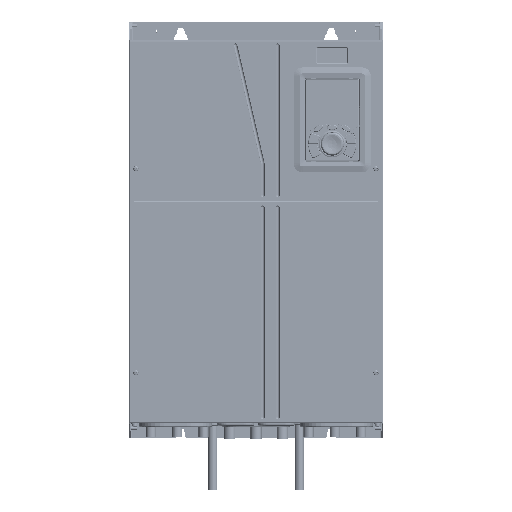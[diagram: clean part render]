
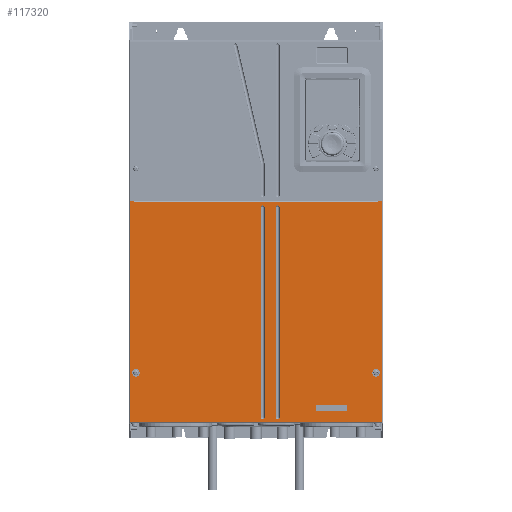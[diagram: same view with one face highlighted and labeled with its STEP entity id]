
A CAD part, top view. The second image highlights one B-rep face of the part: STEP entity #117320.
In plain terms, the highlighted planar face has unit normal (0, 0, 1).
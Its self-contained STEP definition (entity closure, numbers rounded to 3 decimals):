
#116324=DIRECTION('',(0.,1.,0.));
#116325=VECTOR('',#116324,1.2);
#116326=CARTESIAN_POINT('',(163.,146.7,1.2));
#116327=LINE('',#116326,#116325);
#116328=DIRECTION('',(-1.,0.,0.));
#116329=VECTOR('',#116328,4.3);
#116330=CARTESIAN_POINT('',(167.3,147.9,1.2));
#116331=LINE('',#116330,#116329);
#116332=DIRECTION('',(-1.,0.,0.));
#116333=VECTOR('',#116332,4.3);
#116334=CARTESIAN_POINT('',(-163.,147.9,1.2));
#116335=LINE('',#116334,#116333);
#116336=DIRECTION('',(0.,1.,0.));
#116337=VECTOR('',#116336,1.2);
#116338=CARTESIAN_POINT('',(-163.,146.7,1.2));
#116339=LINE('',#116338,#116337);
#116340=DIRECTION('',(0.,1.,0.));
#116341=VECTOR('',#116340,7.);
#116342=CARTESIAN_POINT('',(79.8,-131.4,1.2));
#116343=LINE('',#116342,#116341);
#116344=DIRECTION('',(-1.,0.,0.));
#116345=VECTOR('',#116344,41.);
#116346=CARTESIAN_POINT('',(120.8,-131.4,1.2));
#116347=LINE('',#116346,#116345);
#116348=DIRECTION('',(0.,-1.,0.));
#116349=VECTOR('',#116348,7.);
#116350=CARTESIAN_POINT('',(120.8,-124.4,1.2));
#116351=LINE('',#116350,#116349);
#116352=DIRECTION('',(1.,0.,0.));
#116353=VECTOR('',#116352,41.);
#116354=CARTESIAN_POINT('',(79.8,-124.4,1.2));
#116355=LINE('',#116354,#116353);
#116356=CARTESIAN_POINT('',(160.,-80.9,1.2));
#116357=DIRECTION('',(0.,0.,1.));
#116358=DIRECTION('',(0.,-1.,0.));
#116359=AXIS2_PLACEMENT_3D('',#116356,#116357,#116358);
#116361=CARTESIAN_POINT('',(160.,-80.9,1.2));
#116362=DIRECTION('',(0.,0.,1.));
#116363=DIRECTION('',(0.,1.,0.));
#116364=AXIS2_PLACEMENT_3D('',#116361,#116362,#116363);
#116366=CARTESIAN_POINT('',(-160.,-80.9,1.2));
#116367=DIRECTION('',(0.,0.,1.));
#116368=DIRECTION('',(0.,-1.,0.));
#116369=AXIS2_PLACEMENT_3D('',#116366,#116367,#116368);
#116371=CARTESIAN_POINT('',(-160.,-80.9,1.2));
#116372=DIRECTION('',(0.,0.,1.));
#116373=DIRECTION('',(0.,1.,0.));
#116374=AXIS2_PLACEMENT_3D('',#116371,#116372,#116373);
#116376=DIRECTION('',(0.,1.,0.));
#116377=VECTOR('',#116376,280.);
#116378=CARTESIAN_POINT('',(31.5,-140.4,1.2));
#116379=LINE('',#116378,#116377);
#116380=CARTESIAN_POINT('',(29.,139.6,1.2));
#116381=DIRECTION('',(0.,0.,1.));
#116382=DIRECTION('',(1.,0.,0.));
#116383=AXIS2_PLACEMENT_3D('',#116380,#116381,#116382);
#116385=CARTESIAN_POINT('',(29.,139.6,1.2));
#116386=DIRECTION('',(0.,0.,-1.));
#116387=DIRECTION('',(-1.,0.,0.));
#116388=AXIS2_PLACEMENT_3D('',#116385,#116386,#116387);
#116390=DIRECTION('',(0.,1.,0.));
#116391=VECTOR('',#116390,280.);
#116392=CARTESIAN_POINT('',(26.5,-140.4,1.2));
#116393=LINE('',#116392,#116391);
#116394=CARTESIAN_POINT('',(29.,-140.4,1.2));
#116395=DIRECTION('',(0.,0.,1.));
#116396=DIRECTION('',(-1.,0.,0.));
#116397=AXIS2_PLACEMENT_3D('',#116394,#116395,#116396);
#116399=CARTESIAN_POINT('',(29.,-140.4,1.2));
#116400=DIRECTION('',(0.,0.,-1.));
#116401=DIRECTION('',(1.,0.,0.));
#116402=AXIS2_PLACEMENT_3D('',#116399,#116400,#116401);
#116404=DIRECTION('',(0.,1.,0.));
#116405=VECTOR('',#116404,280.);
#116406=CARTESIAN_POINT('',(11.5,-140.4,1.2));
#116407=LINE('',#116406,#116405);
#116408=CARTESIAN_POINT('',(9.,139.6,1.2));
#116409=DIRECTION('',(0.,0.,1.));
#116410=DIRECTION('',(1.,0.,0.));
#116411=AXIS2_PLACEMENT_3D('',#116408,#116409,#116410);
#116413=CARTESIAN_POINT('',(9.,139.6,1.2));
#116414=DIRECTION('',(0.,0.,-1.));
#116415=DIRECTION('',(-1.,0.,0.));
#116416=AXIS2_PLACEMENT_3D('',#116413,#116414,#116415);
#116418=DIRECTION('',(0.,1.,0.));
#116419=VECTOR('',#116418,280.);
#116420=CARTESIAN_POINT('',(6.5,-140.4,1.2));
#116421=LINE('',#116420,#116419);
#116422=CARTESIAN_POINT('',(9.,-140.4,1.2));
#116423=DIRECTION('',(0.,0.,1.));
#116424=DIRECTION('',(-1.,0.,0.));
#116425=AXIS2_PLACEMENT_3D('',#116422,#116423,#116424);
#116427=CARTESIAN_POINT('',(9.,-140.4,1.2));
#116428=DIRECTION('',(0.,0.,-1.));
#116429=DIRECTION('',(1.,0.,0.));
#116430=AXIS2_PLACEMENT_3D('',#116427,#116428,#116429);
#116441=DIRECTION('',(1.,0.,0.));
#116442=VECTOR('',#116441,326.);
#116443=CARTESIAN_POINT('',(-163.,146.7,1.2));
#116444=LINE('',#116443,#116442);
#116717=DIRECTION('',(0.,-1.,0.));
#116718=VECTOR('',#116717,294.1);
#116719=CARTESIAN_POINT('',(167.3,147.9,1.2));
#116720=LINE('',#116719,#116718);
#116801=DIRECTION('',(-1.,0.,0.));
#116802=VECTOR('',#116801,334.6);
#116803=CARTESIAN_POINT('',(167.3,-146.2,1.2));
#116804=LINE('',#116803,#116802);
#116931=DIRECTION('',(0.,1.,0.));
#116932=VECTOR('',#116931,294.1);
#116933=CARTESIAN_POINT('',(-167.3,-146.2,1.2));
#116934=LINE('',#116933,#116932);
#117042=CARTESIAN_POINT('',(167.3,147.9,1.2));
#117043=VERTEX_POINT('',#117042);
#117064=CARTESIAN_POINT('',(-167.3,147.9,1.2));
#117065=VERTEX_POINT('',#117064);
#117082=CARTESIAN_POINT('',(-167.3,-146.2,1.2));
#117083=VERTEX_POINT('',#117082);
#117086=CARTESIAN_POINT('',(167.3,-146.2,1.2));
#117087=VERTEX_POINT('',#117086);
#117112=CARTESIAN_POINT('',(-160.,-84.65,1.2));
#117113=CARTESIAN_POINT('',(-160.,-77.15,1.2));
#117114=VERTEX_POINT('',#117112);
#117115=VERTEX_POINT('',#117113);
#117116=CARTESIAN_POINT('',(160.,-84.65,1.2));
#117117=CARTESIAN_POINT('',(160.,-77.15,1.2));
#117118=VERTEX_POINT('',#117116);
#117119=VERTEX_POINT('',#117117);
#117124=CARTESIAN_POINT('',(163.,146.7,1.2));
#117125=VERTEX_POINT('',#117124);
#117126=CARTESIAN_POINT('',(-163.,146.7,1.2));
#117127=VERTEX_POINT('',#117126);
#117134=CARTESIAN_POINT('',(163.,147.9,1.2));
#117135=VERTEX_POINT('',#117134);
#117138=CARTESIAN_POINT('',(-163.,147.9,1.2));
#117139=VERTEX_POINT('',#117138);
#117152=CARTESIAN_POINT('',(79.8,-131.4,1.2));
#117153=CARTESIAN_POINT('',(79.8,-124.4,1.2));
#117154=VERTEX_POINT('',#117152);
#117155=VERTEX_POINT('',#117153);
#117156=CARTESIAN_POINT('',(120.8,-124.4,1.2));
#117157=VERTEX_POINT('',#117156);
#117158=CARTESIAN_POINT('',(120.8,-131.4,1.2));
#117159=VERTEX_POINT('',#117158);
#117184=CARTESIAN_POINT('',(31.5,-140.4,1.2));
#117185=CARTESIAN_POINT('',(31.5,139.6,1.2));
#117186=VERTEX_POINT('',#117184);
#117187=VERTEX_POINT('',#117185);
#117188=CARTESIAN_POINT('',(26.5,-140.4,1.2));
#117189=CARTESIAN_POINT('',(26.5,139.6,1.2));
#117190=VERTEX_POINT('',#117188);
#117191=VERTEX_POINT('',#117189);
#117192=CARTESIAN_POINT('',(29.,142.1,1.2));
#117193=VERTEX_POINT('',#117192);
#117194=CARTESIAN_POINT('',(29.,-142.9,1.2));
#117195=VERTEX_POINT('',#117194);
#117208=CARTESIAN_POINT('',(11.5,-140.4,1.2));
#117209=CARTESIAN_POINT('',(11.5,139.6,1.2));
#117210=VERTEX_POINT('',#117208);
#117211=VERTEX_POINT('',#117209);
#117212=CARTESIAN_POINT('',(6.5,-140.4,1.2));
#117213=CARTESIAN_POINT('',(6.5,139.6,1.2));
#117214=VERTEX_POINT('',#117212);
#117215=VERTEX_POINT('',#117213);
#117216=CARTESIAN_POINT('',(9.,142.1,1.2));
#117217=VERTEX_POINT('',#117216);
#117218=CARTESIAN_POINT('',(9.,-142.9,1.2));
#117219=VERTEX_POINT('',#117218);
#117248=CARTESIAN_POINT('',(0.,0.,1.2));
#117249=DIRECTION('',(0.,0.,1.));
#117250=DIRECTION('',(1.,0.,0.));
#117251=AXIS2_PLACEMENT_3D('',#117248,#117249,#117250);
#117252=PLANE('',#117251);
#117254=ORIENTED_EDGE('',*,*,#117253,.T.);
#117256=ORIENTED_EDGE('',*,*,#117255,.T.);
#117258=ORIENTED_EDGE('',*,*,#117257,.F.);
#117260=ORIENTED_EDGE('',*,*,#117259,.T.);
#117262=ORIENTED_EDGE('',*,*,#117261,.T.);
#117264=ORIENTED_EDGE('',*,*,#117263,.T.);
#117266=ORIENTED_EDGE('',*,*,#117265,.F.);
#117268=ORIENTED_EDGE('',*,*,#117267,.F.);
#117269=EDGE_LOOP('',(#117254,#117256,#117258,#117260,#117262,#117264,#117266,
#117268));
#117270=FACE_OUTER_BOUND('',#117269,.F.);
#117272=ORIENTED_EDGE('',*,*,#117271,.F.);
#117274=ORIENTED_EDGE('',*,*,#117273,.F.);
#117276=ORIENTED_EDGE('',*,*,#117275,.F.);
#117277=ORIENTED_EDGE('',*,*,#117237,.F.);
#117278=EDGE_LOOP('',(#117272,#117274,#117276,#117277));
#117279=FACE_BOUND('',#117278,.F.);
#117281=ORIENTED_EDGE('',*,*,#117280,.T.);
#117283=ORIENTED_EDGE('',*,*,#117282,.T.);
#117284=EDGE_LOOP('',(#117281,#117283));
#117285=FACE_BOUND('',#117284,.F.);
#117287=ORIENTED_EDGE('',*,*,#117286,.T.);
#117289=ORIENTED_EDGE('',*,*,#117288,.T.);
#117290=EDGE_LOOP('',(#117287,#117289));
#117291=FACE_BOUND('',#117290,.F.);
#117293=ORIENTED_EDGE('',*,*,#117292,.T.);
#117295=ORIENTED_EDGE('',*,*,#117294,.T.);
#117297=ORIENTED_EDGE('',*,*,#117296,.F.);
#117299=ORIENTED_EDGE('',*,*,#117298,.F.);
#117301=ORIENTED_EDGE('',*,*,#117300,.T.);
#117303=ORIENTED_EDGE('',*,*,#117302,.F.);
#117304=EDGE_LOOP('',(#117293,#117295,#117297,#117299,#117301,#117303));
#117305=FACE_BOUND('',#117304,.F.);
#117307=ORIENTED_EDGE('',*,*,#117306,.T.);
#117309=ORIENTED_EDGE('',*,*,#117308,.T.);
#117311=ORIENTED_EDGE('',*,*,#117310,.F.);
#117313=ORIENTED_EDGE('',*,*,#117312,.F.);
#117315=ORIENTED_EDGE('',*,*,#117314,.T.);
#117317=ORIENTED_EDGE('',*,*,#117316,.F.);
#117318=EDGE_LOOP('',(#117307,#117309,#117311,#117313,#117315,#117317));
#117319=FACE_BOUND('',#117318,.F.);
#116360=CIRCLE('',#116359,3.75);
#116365=CIRCLE('',#116364,3.75);
#116370=CIRCLE('',#116369,3.75);
#116375=CIRCLE('',#116374,3.75);
#116384=CIRCLE('',#116383,2.5);
#116389=CIRCLE('',#116388,2.5);
#116398=CIRCLE('',#116397,2.5);
#116403=CIRCLE('',#116402,2.5);
#116412=CIRCLE('',#116411,2.5);
#116417=CIRCLE('',#116416,2.5);
#116426=CIRCLE('',#116425,2.5);
#116431=CIRCLE('',#116430,2.5);
#117237=EDGE_CURVE('',#117155,#117157,#116355,.T.);
#117253=EDGE_CURVE('',#117127,#117125,#116444,.T.);
#117255=EDGE_CURVE('',#117125,#117135,#116327,.T.);
#117257=EDGE_CURVE('',#117043,#117135,#116331,.T.);
#117259=EDGE_CURVE('',#117043,#117087,#116720,.T.);
#117261=EDGE_CURVE('',#117087,#117083,#116804,.T.);
#117263=EDGE_CURVE('',#117083,#117065,#116934,.T.);
#117265=EDGE_CURVE('',#117139,#117065,#116335,.T.);
#117267=EDGE_CURVE('',#117127,#117139,#116339,.T.);
#117271=EDGE_CURVE('',#117154,#117155,#116343,.T.);
#117273=EDGE_CURVE('',#117159,#117154,#116347,.T.);
#117275=EDGE_CURVE('',#117157,#117159,#116351,.T.);
#117280=EDGE_CURVE('',#117118,#117119,#116360,.T.);
#117282=EDGE_CURVE('',#117119,#117118,#116365,.T.);
#117286=EDGE_CURVE('',#117114,#117115,#116370,.T.);
#117288=EDGE_CURVE('',#117115,#117114,#116375,.T.);
#117292=EDGE_CURVE('',#117186,#117187,#116379,.T.);
#117294=EDGE_CURVE('',#117187,#117193,#116384,.T.);
#117296=EDGE_CURVE('',#117191,#117193,#116389,.T.);
#117298=EDGE_CURVE('',#117190,#117191,#116393,.T.);
#117300=EDGE_CURVE('',#117190,#117195,#116398,.T.);
#117302=EDGE_CURVE('',#117186,#117195,#116403,.T.);
#117306=EDGE_CURVE('',#117210,#117211,#116407,.T.);
#117308=EDGE_CURVE('',#117211,#117217,#116412,.T.);
#117310=EDGE_CURVE('',#117215,#117217,#116417,.T.);
#117312=EDGE_CURVE('',#117214,#117215,#116421,.T.);
#117314=EDGE_CURVE('',#117214,#117219,#116426,.T.);
#117316=EDGE_CURVE('',#117210,#117219,#116431,.T.);
#117320=ADVANCED_FACE('',(#117270,#117279,#117285,#117291,#117305,#117319),
#117252,.T.);
